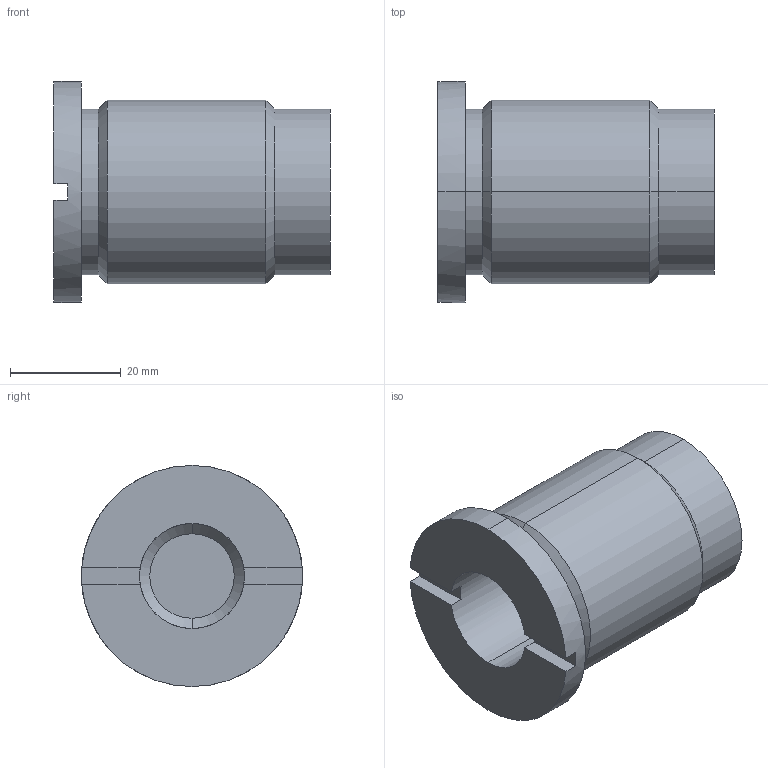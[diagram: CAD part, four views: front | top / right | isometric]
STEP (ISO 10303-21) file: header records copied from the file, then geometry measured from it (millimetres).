
FILE_DESCRIPTION(('starvars output'),'2;1');
FILE_NAME('E43904_3.stp','15:58:40 2007/04/16',( 'Thomas Industrial Network Germany GmbH'),( 'Thomas Industrial Network Germany GmbH'),'unknown preprocess','ACIS' ,'unknown authorization');
FILE_SCHEMA(('CONFIG_CONTROL_DESIGN {UNKNOWN IMPLEMENTATION LEVEL}'));
Length unit declared in the file: millimetre
Products named in the file (1): PRODUCT_ID_18
Bounding box: 50 x 40 x 40 mm (x, y, z)
Volume: 30044.6 mm3; surface area: 10755.1 mm2
Topology: 1 solids, 1 shells, 33 faces, 74 edges, 44 vertices
Faces by surface type: cylinder 14, plane 11, cone 8
Entity records: 810 total; most frequent: ORIENTED_EDGE 148, CARTESIAN_POINT 112, DIRECTION 102, EDGE_CURVE 74, VERTEX_POINT 44, AXIS2_PLACEMENT_3D 34, EDGE_LOOP 34, FACE_BOUND 34
